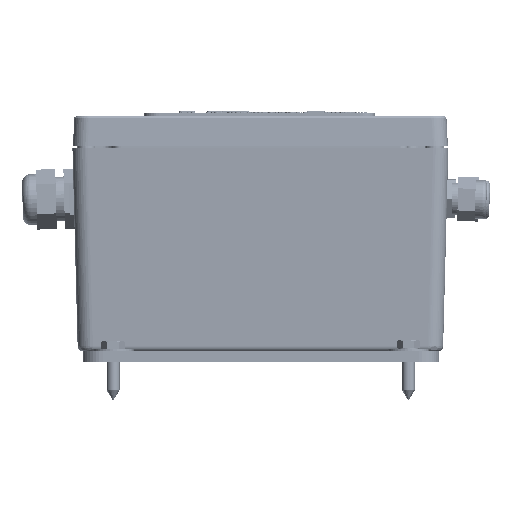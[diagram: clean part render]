
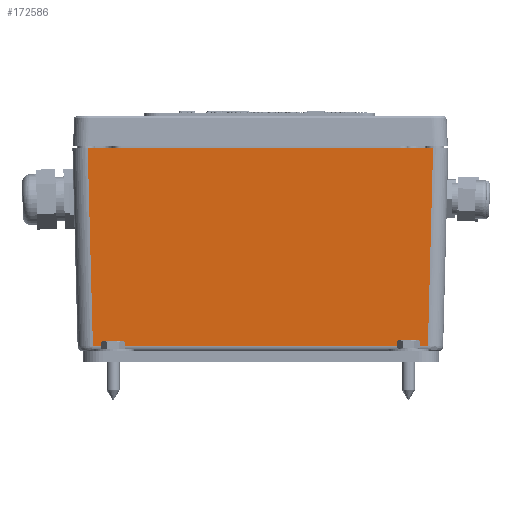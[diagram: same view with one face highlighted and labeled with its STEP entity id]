
A CAD part, front view. The second image highlights one B-rep face of the part: STEP entity #172586.
In plain terms, the highlighted planar face has unit normal (0, -1, -0.026).
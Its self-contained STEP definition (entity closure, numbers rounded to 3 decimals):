
#11827=LINE($,#220592,#27578);
#11965=LINE($,#222709,#27716);
#11966=LINE($,#222712,#27717);
#11967=LINE($,#222713,#27718);
#27578=VECTOR($,#189590,8.225);
#27716=VECTOR($,#190132,4.882);
#27717=VECTOR($,#190135,8.481);
#27718=VECTOR($,#190136,4.882);
#43299=PLANE($,#182133);
#49831=FACE_OUTER_BOUND($,#59074,.T.);
#59074=EDGE_LOOP($,(#113753,#113754,#113755,#113756));
#70843=VERTEX_POINT($,#220579);
#70845=VERTEX_POINT($,#220591);
#71026=VERTEX_POINT($,#222707);
#71027=VERTEX_POINT($,#222711);
#87985=EDGE_CURVE($,#70843,#70845,#11827,.T.);
#88295=EDGE_CURVE($,#70843,#71026,#11965,.T.);
#88296=EDGE_CURVE($,#71027,#71026,#11966,.T.);
#88297=EDGE_CURVE($,#71027,#70845,#11967,.T.);
#113753=ORIENTED_EDGE($,*,*,#87985,.F.);
#113754=ORIENTED_EDGE($,*,*,#88295,.T.);
#113755=ORIENTED_EDGE($,*,*,#88296,.F.);
#113756=ORIENTED_EDGE($,*,*,#88297,.T.);
#172586=ADVANCED_FACE($,(#49831),#43299,.T.);
#182133=AXIS2_PLACEMENT_3D($,#222710,#190133,#190134);
#189590=DIRECTION($,(-1.,0.,0.));
#190132=DIRECTION($,(0.026,-0.026,0.999));
#190133=DIRECTION('center_axis',(0.,-1.,
-0.026));
#190134=DIRECTION('ref_axis',(0.,0.026,
-1.));
#190135=DIRECTION($,(1.,0.,0.));
#190136=DIRECTION($,(0.026,0.026,-0.999));
#220579=CARTESIAN_POINT('',(6.427,-4.254,-9.341));
#220591=CARTESIAN_POINT('',(-1.799,-4.254,-9.341));
#220592=CARTESIAN_POINT($,(6.427,-4.254,-9.341));
#222707=CARTESIAN_POINT('',(6.554,-4.382,-4.463));
#222709=CARTESIAN_POINT($,(6.427,-4.254,-9.341));
#222710=CARTESIAN_POINT('Origin',(6.798,-4.251,-9.463));
#222711=CARTESIAN_POINT('',(-1.926,-4.382,-4.463));
#222712=CARTESIAN_POINT($,(2.565,-4.382,-4.463));
#222713=CARTESIAN_POINT($,(-1.926,-4.382,-4.463));
